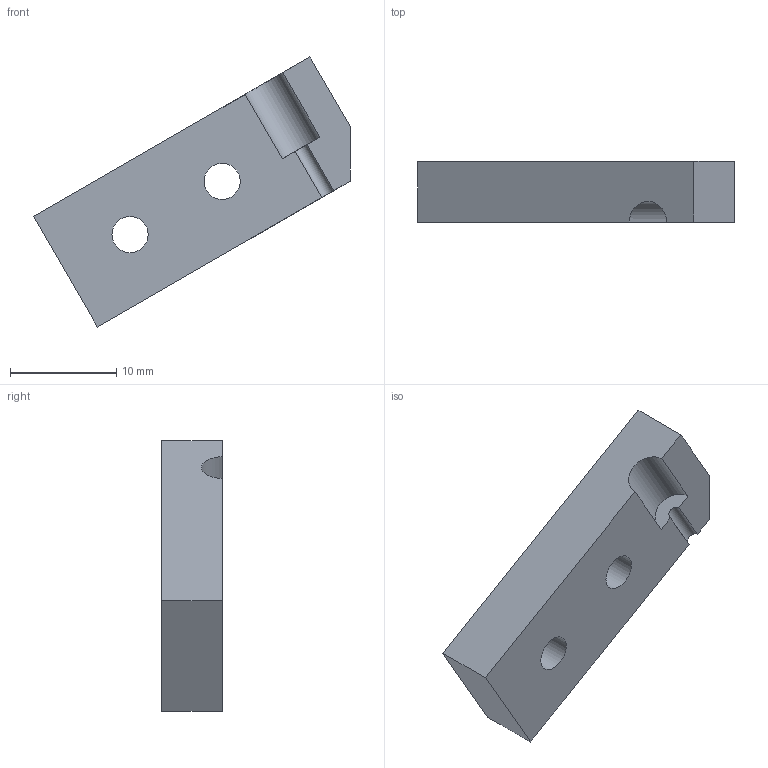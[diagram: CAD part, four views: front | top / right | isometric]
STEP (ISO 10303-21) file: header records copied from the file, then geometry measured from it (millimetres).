
FILE_DESCRIPTION(('Open CASCADE Model'),'2;1');
FILE_NAME('P12-P12_tube_cap.step', '', ('Noah Wilson'), (''), '', '', '');
FILE_SCHEMA(('AUTOMOTIVE_DESIGN { 1 0 10303 214 1 1 1 1 }'));
Length unit declared in the file: millimetre
Products named in the file (1): COMPOUND
Bounding box: 29.78 x 5.7 x 25.39 mm (x, y, z)
Volume: 1747.8 mm3; surface area: 1334.9 mm2
Topology: 1 solids, 1 shells, 27 faces, 69 edges, 46 vertices
Faces by surface type: plane 23, cylinder 4
Full cylindrical faces by diameter (mm): 3.4 x2
Entity records: 1734 total; most frequent: CARTESIAN_POINT 309, DIRECTION 263, LINE 187, VECTOR 187, ORIENTED_EDGE 138, PCURVE 138, DEFINITIONAL_REPRESENTATION 138, EDGE_CURVE 69
